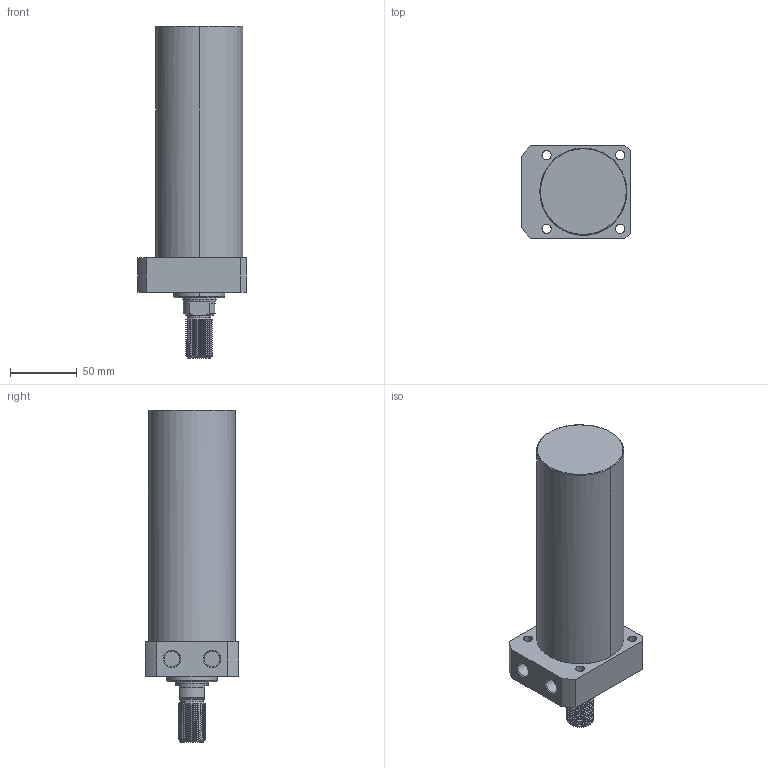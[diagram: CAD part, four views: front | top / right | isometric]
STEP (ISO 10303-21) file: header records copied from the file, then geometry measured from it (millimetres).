
FILE_DESCRIPTION((' '),'2;1');
FILE_NAME( 'TLLR-065CT-140.STEP.stp', '2025-10-24T16:35:02', (' '), ('--- Datakit www.datakit.com---'), ' Datakit CrossCadWare V2024.1 Dec 21 2023', 'Mastercam 2025', ' ');
FILE_SCHEMA(('AUTOMOTIVE_DESIGN { 1 0 10303 214 1 1 1 1 }'));
Length unit declared in the file: millimetre
Products named in the file (1): TLLR-065CT-140
Bounding box: 81 x 70 x 248 mm (x, y, z)
Volume: 730531.7 mm3; surface area: 61919.8 mm2
Topology: 1 solids, 1 shells, 106 faces, 381 edges, 285 vertices
Faces by surface type: cylinder 66, plane 20, cone 16, bspline 2, torus 2
Entity records: 12380 total; most frequent: CARTESIAN_POINT 9130, ORIENTED_EDGE 762, DIRECTION 531, EDGE_CURVE 381, VERTEX_POINT 285, AXIS2_PLACEMENT_3D 214, B_SPLINE_CURVE_WITH_KNOTS 169, EDGE_LOOP 122
